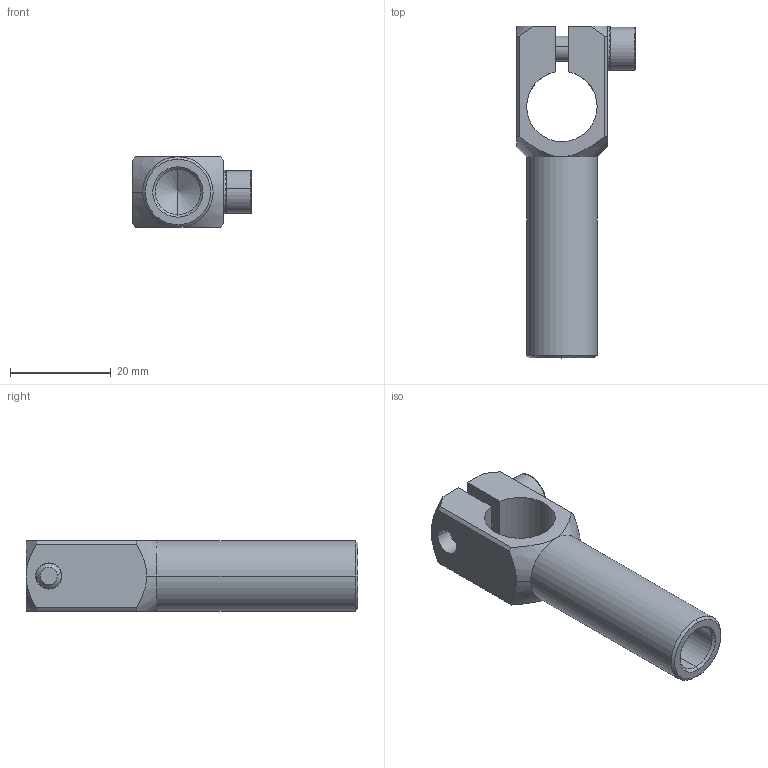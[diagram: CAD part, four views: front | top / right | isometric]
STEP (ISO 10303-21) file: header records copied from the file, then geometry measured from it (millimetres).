
FILE_DESCRIPTION (( 'STEP AP214' ), '1' );
FILE_NAME ('SCA1-1414L40.STEP', '2019-11-07T05:42:31', ( '微软用户' ), ( '微软中国' ), 'SwSTEP 2.0', 'SolidWorks 2016', '' );
FILE_SCHEMA (( 'AUTOMOTIVE_DESIGN' ));
Length unit declared in the file: millimetre
Products named in the file (1): SCA1-1414L40
Bounding box: 23.6 x 66 x 14 mm (x, y, z)
Volume: 7935.3 mm3; surface area: 6049.3 mm2
Topology: 3 solids, 3 shells, 250 faces, 713 edges, 468 vertices
Faces by surface type: plane 211, cylinder 22, cone 15, bspline 2
Entity records: 11194 total; most frequent: CARTESIAN_POINT 1684, DIRECTION 1434, ORIENTED_EDGE 1422, EDGE_CURVE 711, AXIS2_PLACEMENT_3D 493, VERTEX_POINT 468, VECTOR 448, LINE 448
